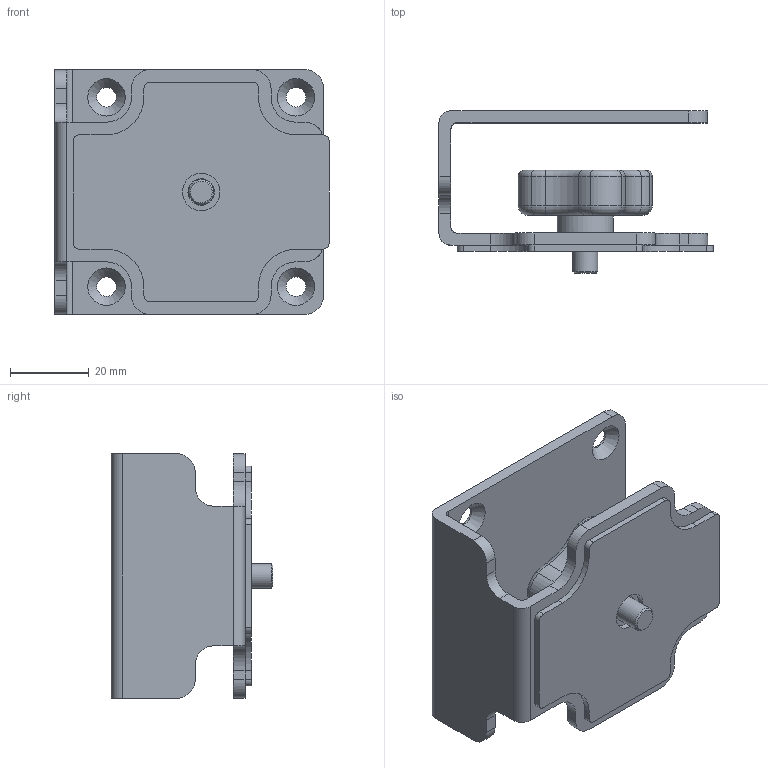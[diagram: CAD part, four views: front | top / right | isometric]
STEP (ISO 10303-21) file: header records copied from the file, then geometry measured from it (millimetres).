
FILE_DESCRIPTION(/* description */ (''),/* implementation_level */ '2;1');
FILE_NAME(/* name */ 'K:\Sales-Custom Engineering\STEP & IGES Files (Generic Reference Files)\Current Files\8263 Gen Ref\8263_Shrinkwrap_1.stp',/* time_stamp */ '2018-06-01T13:54:42-04:00',/* author */ ('chochberg'),/* organization */ (''),/* preprocessor_version */ 'ST-DEVELOPER v16.1',/* originating_system */ 'Autodesk Inventor 2016',/* authorisation */ '');
FILE_SCHEMA (('AUTOMOTIVE_DESIGN { 1 0 10303 214 3 1 1 }'));
Length unit declared in the file: inch
Products named in the file (1): 8263_Shrinkwrap_1
Bounding box: 69.79 x 41.25 x 62.31 mm (x, y, z)
Volume: 38152.9 mm3; surface area: 24417.5 mm2
Topology: 1 solids, 1 shells, 198 faces, 519 edges, 329 vertices
Faces by surface type: cylinder 83, plane 62, torus 48, cone 5
Full cylindrical faces by diameter (mm): 4.978 x4, 6.35 x1, 6.756 x1, 9.119 x1, 9.525 x1, 14.224 x1
Entity records: 6449 total; most frequent: CARTESIAN_POINT 1203, DIRECTION 1146, ORIENTED_EDGE 1000, EDGE_CURVE 500, AXIS2_PLACEMENT_3D 467, VERTEX_POINT 324, CIRCLE 268, EDGE_LOOP 226
